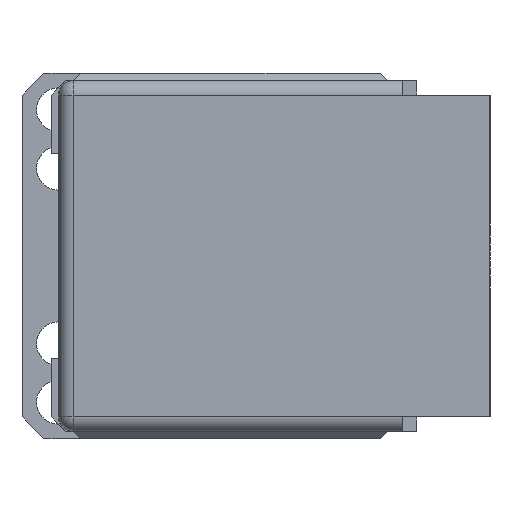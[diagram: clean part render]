
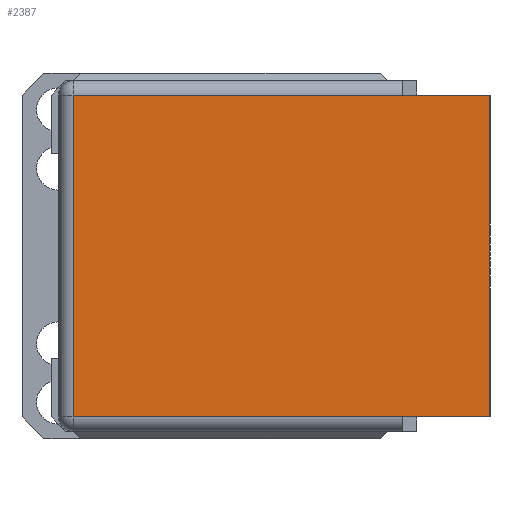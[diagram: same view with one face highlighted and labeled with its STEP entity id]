
A CAD part, left-side view. The second image highlights one B-rep face of the part: STEP entity #2387.
In plain terms, the highlighted planar face has unit normal (-1, 0, 0).
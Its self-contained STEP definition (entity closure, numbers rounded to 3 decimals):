
#227 = ORIENTED_EDGE ( 'NONE', *, *, #4140, .F. ) ;
#321 = VECTOR ( 'NONE', #3239, 1000. ) ;
#479 = EDGE_CURVE ( 'NONE', #1593, #4659, #2535, .T. ) ;
#523 = ORIENTED_EDGE ( 'NONE', *, *, #2054, .T. ) ;
#593 = CARTESIAN_POINT ( 'NONE',  ( 0., 6., -11. ) ) ;
#633 = EDGE_CURVE ( 'NONE', #5094, #1593, #4202, .T. ) ;
#758 = ORIENTED_EDGE ( 'NONE', *, *, #5090, .T. ) ;
#761 = LINE ( 'NONE', #4121, #1874 ) ;
#1020 = CARTESIAN_POINT ( 'NONE',  ( 0., 6., -11. ) ) ;
#1071 = LINE ( 'NONE', #3636, #5296 ) ;
#1587 = PLANE ( 'NONE',  #5073 ) ;
#1593 = VERTEX_POINT ( 'NONE', #2497 ) ;
#1627 = CARTESIAN_POINT ( 'NONE',  ( 0., 28.5, 11. ) ) ;
#1646 = DIRECTION ( 'NONE',  ( 0., -1., 0. ) ) ;
#1846 = LINE ( 'NONE', #593, #2801 ) ;
#1874 = VECTOR ( 'NONE', #1646, 1000. ) ;
#1907 = CARTESIAN_POINT ( 'NONE',  ( 0., 6., 11. ) ) ;
#2011 = CARTESIAN_POINT ( 'NONE',  ( 0., 0., 11. ) ) ;
#2017 = VECTOR ( 'NONE', #3141, 1000. ) ;
#2054 = EDGE_CURVE ( 'NONE', #5188, #3555, #1071, .T. ) ;
#2142 = VERTEX_POINT ( 'NONE', #2467 ) ;
#2387 = ADVANCED_FACE ( 'NONE', ( #2934 ), #1587, .F. ) ;
#2416 = DIRECTION ( 'NONE',  ( 0., 0., -1. ) ) ;
#2466 = CARTESIAN_POINT ( 'NONE',  ( 0., 28.5, 11. ) ) ;
#2467 = CARTESIAN_POINT ( 'NONE',  ( 0., 28.5, -11. ) ) ;
#2497 = CARTESIAN_POINT ( 'NONE',  ( 0., 0., -11. ) ) ;
#2535 = LINE ( 'NONE', #2011, #321 ) ;
#2701 = ORIENTED_EDGE ( 'NONE', *, *, #479, .T. ) ;
#2727 = CARTESIAN_POINT ( 'NONE',  ( 0., 6., -11. ) ) ;
#2784 = CARTESIAN_POINT ( 'NONE',  ( 0., 0., 11. ) ) ;
#2801 = VECTOR ( 'NONE', #3898, 1000. ) ;
#2934 = FACE_OUTER_BOUND ( 'NONE', #4145, .T. ) ;
#3141 = DIRECTION ( 'NONE',  ( 0., -1., 0. ) ) ;
#3239 = DIRECTION ( 'NONE',  ( 0., 0., 1. ) ) ;
#3555 = VERTEX_POINT ( 'NONE', #2466 ) ;
#3636 = CARTESIAN_POINT ( 'NONE',  ( 0., 6., 11. ) ) ;
#3898 = DIRECTION ( 'NONE',  ( 0., -1., 0. ) ) ;
#4053 = DIRECTION ( 'NONE',  ( 0., 1., 0. ) ) ;
#4119 = EDGE_CURVE ( 'NONE', #3555, #2142, #5250, .T. ) ;
#4121 = CARTESIAN_POINT ( 'NONE',  ( 0., 6., 11. ) ) ;
#4140 = EDGE_CURVE ( 'NONE', #5188, #4659, #761, .T. ) ;
#4145 = EDGE_LOOP ( 'NONE', ( #4858, #758, #4262, #2701, #227, #523 ) ) ;
#4183 = VECTOR ( 'NONE', #4497, 1000. ) ;
#4202 = LINE ( 'NONE', #2727, #2017 ) ;
#4262 = ORIENTED_EDGE ( 'NONE', *, *, #633, .T. ) ;
#4455 = CARTESIAN_POINT ( 'NONE',  ( 0., 6., 11. ) ) ;
#4497 = DIRECTION ( 'NONE',  ( 0., 0., -1. ) ) ;
#4659 = VERTEX_POINT ( 'NONE', #2784 ) ;
#4858 = ORIENTED_EDGE ( 'NONE', *, *, #4119, .T. ) ;
#4870 = DIRECTION ( 'NONE',  ( 1., 0., 0. ) ) ;
#5073 = AXIS2_PLACEMENT_3D ( 'NONE', #4455, #4870, #2416 ) ;
#5090 = EDGE_CURVE ( 'NONE', #2142, #5094, #1846, .T. ) ;
#5094 = VERTEX_POINT ( 'NONE', #1020 ) ;
#5188 = VERTEX_POINT ( 'NONE', #1907 ) ;
#5250 = LINE ( 'NONE', #1627, #4183 ) ;
#5296 = VECTOR ( 'NONE', #4053, 1000. ) ;
